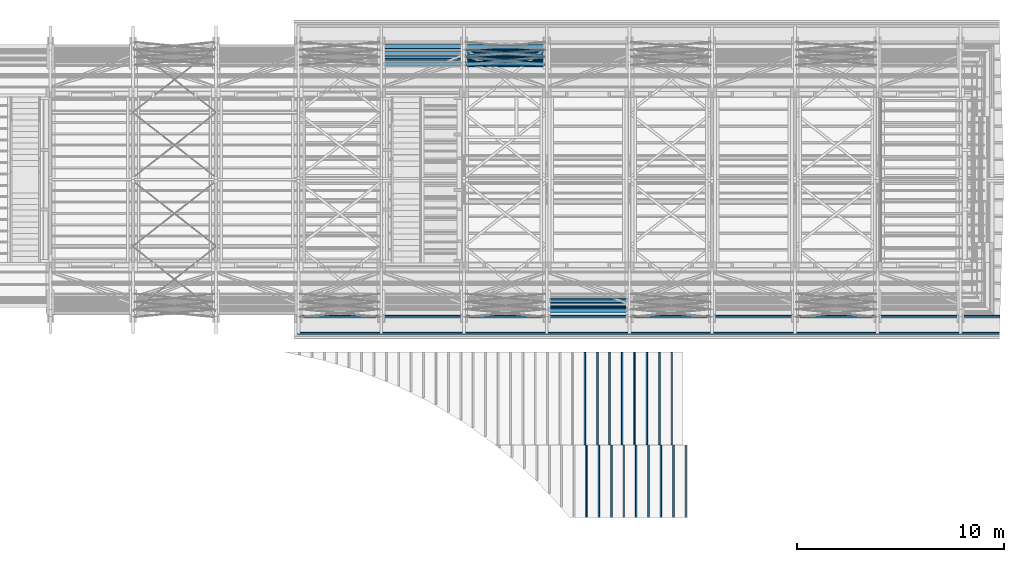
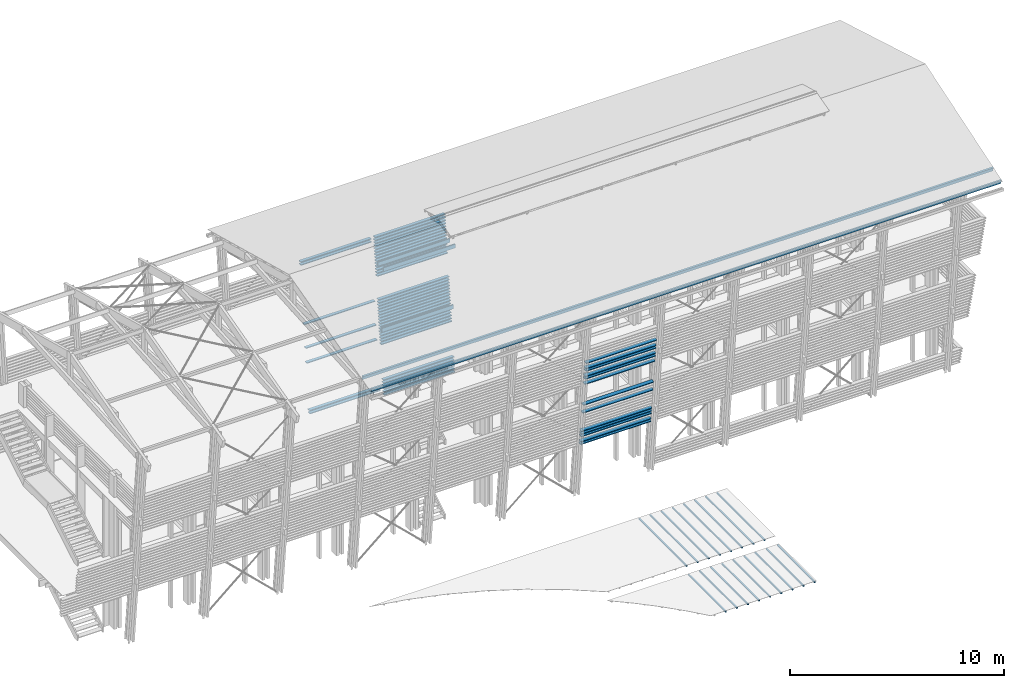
# One storey, part 16 of 48: 78 beams.
"""IFC2X3 building model written with IfcOpenShell, lengths in metres."""

import ifcopenshell
import ifcopenshell.guid

model = None  # the IFC model being written
_history = None  # IfcOwnerHistory: only IFC2X3 demands one
_inside = {}  # id of a spatial element -> (the spatial element, [elements in it])
_under = {}  # id of a project, library or spatial element -> (it, [spatial elements below it])
_declared = {}  # id of a project -> (the project, [libraries it declares])
_typed = {}  # id of a type object -> (the type object, [elements of that type])
_made_of = {}  # id of a material, layer set ... -> (it, [elements and type objects made of it])


def new_model(schema):
    """Start an empty IFC model of exactly this schema.

    Asked for "IFC4X3", IfcOpenShell would pick the latest addendum, in which some entities
    have other attributes; the version numbers below select the first issue.
    IFC2X3 requires an IfcOwnerHistory on every rooted entity: one is made here for all.
    """
    global model, _history
    if schema == "IFC4X3":
        model = ifcopenshell.file(schema_version=(4, 3, 0, 0))
    else:
        model = ifcopenshell.file(schema=schema)
    _inside.clear()
    _under.clear()
    _declared.clear()
    _typed.clear()
    _made_of.clear()
    _history = None
    if model.schema == "IFC2X3":
        org = make("IfcOrganization", Name="unknown")
        user = make(
            "IfcPersonAndOrganization",
            ThePerson=make("IfcPerson", FamilyName="unknown"),
            TheOrganization=org,
        )
        app = make(
            "IfcApplication",
            ApplicationDeveloper=org,
            Version="unknown",
            ApplicationFullName="unknown",
            ApplicationIdentifier="unknown",
        )
        _history = make(
            "IfcOwnerHistory",
            OwningUser=user,
            OwningApplication=app,
            ChangeAction="ADDED",
            CreationDate=0,
        )
    return model


def make(cls, **values):
    """One entity of the class cls with the attributes given. An attribute that is None is left unset."""
    return model.create_entity(
        cls, **{name: value for name, value in values.items() if value is not None}
    )


def rooted(cls, **values):
    """An entity with a GlobalId (a new one), such as an element, a storey or a relation."""
    return make(cls, GlobalId=ifcopenshell.guid.new(), OwnerHistory=_history, **values)


def si_unit(unit_type, name, prefix=None):
    """IfcSIUnit, for example si_unit("LENGTHUNIT", "METRE", prefix="MILLI")."""
    return make("IfcSIUnit", UnitType=unit_type, Prefix=prefix, Name=name)


def assignment(units):
    """IfcUnitAssignment: the units of a project."""
    return None if units is None else make("IfcUnitAssignment", Units=units)


def point(xyz):
    """IfcCartesianPoint."""
    return None if xyz is None else make("IfcCartesianPoint", Coordinates=xyz)


def direction(xyz):
    """IfcDirection."""
    return None if xyz is None else make("IfcDirection", DirectionRatios=xyz)


def frame(location, z_axis=None, x_axis=None):
    """IfcAxis2Placement3D, a coordinate frame: its origin and axes. An axis left out is left unset."""
    return make(
        "IfcAxis2Placement3D",
        Location=point(location),
        Axis=direction(z_axis),
        RefDirection=direction(x_axis),
    )


def origin_with_axes():
    """The frame at (0, 0, 0) with the z axis (0, 0, 1) and the x axis (1, 0, 0) written out."""
    return frame((0.0, 0.0, 0.0), z_axis=(0.0, 0.0, 1.0), x_axis=(1.0, 0.0, 0.0))


def place(relative_to, where):
    """IfcLocalPlacement: puts the frame where relative to a parent placement (None: the world)."""
    return make(
        "IfcLocalPlacement", PlacementRelTo=relative_to, RelativePlacement=where
    )


def context(
    kind, dimensions, precision=None, world=None, true_north=None, identifier=None
):
    """IfcGeometricRepresentationContext, for example the 3D "Model" context."""
    return make(
        "IfcGeometricRepresentationContext",
        ContextIdentifier=identifier,
        ContextType=kind,
        CoordinateSpaceDimension=dimensions,
        Precision=precision,
        WorldCoordinateSystem=world,
        TrueNorth=true_north,
    )


def subcontext(parent, identifier, kind, view, scale=None):
    """IfcGeometricRepresentationSubContext, for example "Body" below "Model"."""
    return make(
        "IfcGeometricRepresentationSubContext",
        ContextIdentifier=identifier,
        ContextType=kind,
        ParentContext=parent,
        TargetScale=scale,
        TargetView=view,
    )


def project(units=None, contexts=None):
    """IfcProject with its units and contexts."""
    return rooted(
        "IfcProject",
        Name="project",
        RepresentationContexts=contexts,
        UnitsInContext=assignment(units),
    )


def spatial(cls, under=None, at=None, **own):
    """A site, building, storey or space (cls), placed at a placement, below another one or the project."""
    s = rooted(cls, ObjectPlacement=at, **own)
    if under is not None:
        _under.setdefault(under.id(), (under, []))[1].append(s)
    return s


def faces_of(points, faces, orient=None, outer=None):
    """IfcFace entities. A face is a list of loops; a loop is a list of indices into points, from 0.

    orient and outer hold one flag for each loop. By default every Orientation is true, the
    first loop of a face is its IfcFaceOuterBound and the others are IfcFaceBound.
    """
    made = []
    for i, loops in enumerate(faces):
        bounds = []
        for j, loop in enumerate(loops):
            is_outer = j == 0 if outer is None else outer[i][j]
            bounds.append(
                make(
                    "IfcFaceOuterBound" if is_outer else "IfcFaceBound",
                    Bound=make("IfcPolyLoop", Polygon=[points[k] for k in loop]),
                    Orientation=True if orient is None else orient[i][j],
                )
            )
        made.append(make("IfcFace", Bounds=bounds))
    return made


def faceted_brep(points, faces, orient=None, outer=None, voids=None):
    """IfcFacetedBrep: a solid bounded by flat faces; with voids (closed shells), ...WithVoids."""
    shared = [point(p) for p in points]
    hull = make("IfcClosedShell", CfsFaces=faces_of(shared, faces, orient, outer))
    if voids is None:
        return make("IfcFacetedBrep", Outer=hull)
    return make(
        "IfcFacetedBrepWithVoids",
        Outer=hull,
        Voids=[
            make(cls, CfsFaces=faces_of(shared, fs, o, b)) for cls, fs, o, b in voids
        ],
    )


def shape(context_of_items, identifier, shape_type, items):
    """IfcShapeRepresentation: the items that make up one representation, for example the "Body"."""
    return make(
        "IfcShapeRepresentation",
        ContextOfItems=context_of_items,
        RepresentationIdentifier=identifier,
        RepresentationType=shape_type,
        Items=items,
    )


def material(Name=None, Category=None):
    """IfcMaterial."""
    return make("IfcMaterial", Name=Name, Category=Category)


def made_of(thing, what):
    """Note that an element or type object is made of a material, layer set ...; save() writes the relation."""
    if what is not None:
        _made_of.setdefault(what.id(), (what, []))[1].append(thing)
    return thing


def element(
    cls,
    number,
    at=None,
    inside=None,
    cuts=None,
    type_object=None,
    material=None,
    context=None,
    identifier="Body",
    shape_type=None,
    held_by="IfcProductDefinitionShape",
    body=None,
    shapes=None,
    **own,
):
    """One element of the class cls, such as IfcWall. Its Tag is "e" and its number.

    at: its placement. inside: the storey or other place that contains it. cuts: it is an
    opening in that element (IfcRelVoidsElement). A single representation is given by context,
    identifier, shape_type and body (its items); several are given by shapes. held_by: the class
    of the entity that holds the representations. save() writes the other relations.
    """
    e = rooted(cls, Tag="e%d" % number, ObjectPlacement=at, **own)
    if body is not None:
        shapes = [shape(context, identifier, shape_type, body)]
    if shapes is not None:
        e.Representation = make(held_by, Representations=shapes)
    if inside is not None:
        _inside.setdefault(inside.id(), (inside, []))[1].append(e)
    if cuts is not None:
        rooted(
            "IfcRelVoidsElement", RelatingBuildingElement=cuts, RelatedOpeningElement=e
        )
    if type_object is not None:
        _typed.setdefault(type_object.id(), (type_object, []))[1].append(e)
    return made_of(e, material)


def aggregate(whole, parts):
    """IfcRelAggregates: a whole, such as a stair, and the parts it consists of."""
    return rooted("IfcRelAggregates", RelatingObject=whole, RelatedObjects=parts)


def save(model, path):
    """Write the relations noted so far, then the file.

    IfcRelAggregates (storeys below a building ...), IfcRelContainedInSpatialStructure (elements
    in a storey), IfcRelDefinesByType, IfcRelAssociatesMaterial and IfcRelDeclares: one each for
    every whole, place, type object, material and project.
    """
    for whole, parts in _under.values():
        aggregate(whole, parts)
    for where, things in _inside.values():
        rooted(
            "IfcRelContainedInSpatialStructure",
            RelatedElements=things,
            RelatingStructure=where,
        )
    for kind, things in _typed.values():
        rooted("IfcRelDefinesByType", RelatedObjects=things, RelatingType=kind)
    for what, things in _made_of.values():
        rooted("IfcRelAssociatesMaterial", RelatedObjects=things, RelatingMaterial=what)
    for by, libraries in _declared.values():
        rooted("IfcRelDeclares", RelatingContext=by, RelatedDefinitions=libraries)
    model.write(path)


model = new_model("IFC2X3")

# Units and contexts
model_context = context("Model", 3, precision=1e-06, world=origin_with_axes(), true_north=direction((0.0, 1.0, 0.0)))
body_context = subcontext(model_context, "Body", "Model", "MODEL_VIEW")
ifc_project = project(units=[si_unit("LENGTHUNIT", "METRE"), si_unit("AREAUNIT", "SQUARE_METRE"), si_unit("VOLUMEUNIT", "CUBIC_METRE"), si_unit("PLANEANGLEUNIT", "RADIAN")], contexts=[model_context])

# Site, building, storey
site_placement = place(None, origin_with_axes())
site = spatial("IfcSite", under=ifc_project, at=site_placement, CompositionType="ELEMENT")
building_placement = place(site_placement, origin_with_axes())
building = spatial("IfcBuilding", under=site, at=building_placement, Name="Building 1", CompositionType="ELEMENT")
storey_placement = place(building_placement, origin_with_axes())
storey = spatial("IfcBuildingStorey", under=building, at=storey_placement, Name="Storey 1", CompositionType="ELEMENT", Elevation=0.0)

# Beams
ifc_material_1 = material(Name="Moabi")
beam_1_placement = place(storey_placement, frame((53.3927441, -195.4285604, 6.9189793), z_axis=(0.0, 0.9945219, 0.1045285), x_axis=(-1.0, 0.0, 0.0)))
element("IfcBeam", 1, at=beam_1_placement, inside=storey, material=ifc_material_1, Name="garde corp", context=body_context, shape_type="Brep", body=[
    faceted_brep([(3.806, 0.02, -0.1), (3.806, -0.02, -0.1), (0.0, -0.02, -0.1), (0.0, 0.02, -0.1), (3.806, -0.02, 0.1), (0.0, -0.02, 0.1), (3.806, 0.02, 0.1), (0.0, 0.02, 0.1)], [[[0, 1, 2, 3]], [[1, 4, 5, 2]], [[4, 6, 7, 5]], [[6, 0, 3, 7]], [[1, 0, 6, 4]], [[7, 3, 2, 5]]]),
])
beam_2_placement = place(storey_placement, frame((53.3927439, -195.0606202, 3.4182623), z_axis=(0.0, 0.9945219, 0.1045285), x_axis=(-1.0, 0.0, 0.0)))
element("IfcBeam", 2, at=beam_2_placement, inside=storey, material=ifc_material_1, Name="garde corp", context=body_context, shape_type="Brep", body=[
    faceted_brep([(3.8047069, 0.02, -0.1), (3.8047069, -0.02, -0.1), (0.0, -0.02, -0.1), (0.0, 0.02, -0.1), (3.8047069, -0.02, 0.1), (0.0, -0.02, 0.1), (3.8047071, 0.02, 0.1), (0.0, 0.02, 0.1)], [[[0, 1, 2, 3]], [[1, 4, 5, 2]], [[4, 6, 7, 5]], [[6, 0, 3, 7]], [[1, 0, 6, 4]], [[7, 3, 2, 5]]]),
])
beam_3_placement = place(storey_placement, frame((49.3927439, -183.1213756, 5.6459913), z_axis=(0.0, -0.9945219, 0.1045285), x_axis=(-1.0, 0.0, 0.0)))
element("IfcBeam", 3, at=beam_3_placement, inside=storey, material=ifc_material_1, Name="garde corp", context=body_context, shape_type="Brep", body=[
    faceted_brep([(3.8048053, -0.02, 0.1), (3.8048053, 0.02, 0.1), (0.0, 0.02, 0.1), (0.0, -0.02, 0.1), (3.8048051, 0.02, -0.1), (0.0, 0.02, -0.1), (3.8048053, -0.02, -0.1), (0.0, -0.02, -0.1)], [[[0, 1, 2, 3]], [[1, 4, 5, 2]], [[4, 6, 7, 5]], [[6, 0, 3, 7]], [[1, 0, 6, 4]], [[7, 3, 2, 5]]]),
])
ifc_material_2 = material(Name="GL28h")
beam_4_placement = place(storey_placement, frame((52.6127827, -205.5464204, -0.606), z_axis=(-1.0, 0.0, 0.0), x_axis=(0.0, 1.0, 0.0)))
element("IfcBeam", 4, at=beam_4_placement, inside=storey, material=ifc_material_2, Name="carrelet", context=body_context, shape_type="Brep", body=[
    faceted_brep([(3.5, -0.035, -0.035), (3.5, -0.035, 0.035), (0.0, -0.035, 0.035), (0.0, -0.035, -0.035), (3.5, 0.035, 0.035), (0.0, 0.035, 0.035), (3.5, 0.035, -0.035), (0.0, 0.035, -0.035)], [[[0, 1, 2, 3]], [[1, 4, 5, 2]], [[4, 6, 7, 5]], [[6, 0, 3, 7]], [[1, 0, 6, 4]], [[7, 3, 2, 5]]]),
])
beam_5_placement = place(storey_placement, frame((49.3927439, -183.2384475, 4.5321268), z_axis=(0.0, -0.9945219, 0.1045285), x_axis=(-1.0, 0.0, 0.0)))
element("IfcBeam", 5, at=beam_5_placement, inside=storey, material=ifc_material_1, Name="garde corp", context=body_context, shape_type="Brep", body=[
    faceted_brep([(3.8047077, -0.02, 0.1), (3.8047077, 0.02, 0.1), (0.0, 0.02, 0.1), (0.0, -0.02, 0.1), (3.8047077, 0.02, -0.1), (0.0, 0.02, -0.1), (3.8047077, -0.02, -0.1), (0.0, -0.02, -0.1)], [[[0, 1, 2, 3]], [[1, 4, 5, 2]], [[4, 6, 7, 5]], [[6, 0, 3, 7]], [[1, 0, 6, 4]], [[7, 3, 2, 5]]]),
])
beam_6_placement = place(storey_placement, frame((71.383449, -196.6347998, 11.5351594), z_axis=(0.0, -0.258819, 0.9659258), x_axis=(-1.0, 0.0, 0.0)))
element("IfcBeam", 6, at=beam_6_placement, inside=storey, material=ifc_material_2, Name="pannes", context=body_context, shape_type="Brep", body=[
    faceted_brep([(0.0, -0.035, -0.11), (0.0016292, -0.035, 0.11), (0.0035637, 0.035, 0.11), (0.0019346, 0.035, -0.11), (33.9637053, -0.035, 0.11), (33.9637053, 0.035, 0.11), (33.9637053, -0.035, -0.11), (33.9637053, 0.035, -0.11)], [[[0, 1, 2, 3]], [[2, 1, 4, 5]], [[1, 0, 6, 4]], [[3, 2, 5, 7]], [[0, 3, 7, 6]], [[4, 6, 7, 5]]]),
])
beam_7_placement = place(storey_placement, frame((71.4068021, -195.8282517, 11.7512733), z_axis=(0.0, -0.258819, 0.9659258), x_axis=(-1.0, 0.0, 0.0)))
element("IfcBeam", 7, at=beam_7_placement, inside=storey, material=ifc_material_2, Name="pannes", context=body_context, shape_type="Brep", body=[
    faceted_brep([(0.0, -0.045, -0.11), (0.0016292, -0.045, 0.11), (0.0041165, 0.045, 0.11), (0.0024873, 0.045, -0.11), (33.9870584, -0.045, 0.11), (33.9870584, 0.045, 0.11), (33.9870584, -0.045, -0.11), (33.9870584, 0.045, -0.11)], [[[0, 1, 2, 3]], [[2, 1, 4, 5]], [[1, 0, 6, 4]], [[0, 3, 7, 6]], [[3, 2, 5, 7]], [[5, 4, 6, 7]]]),
])
beam_8_placement = place(storey_placement, frame((45.5597437, -183.5174506, 4.139), z_axis=(0.0, 0.0, 1.0), x_axis=(1.0, 0.0, 0.0)))
element("IfcBeam", 8, at=beam_8_placement, inside=storey, material=ifc_material_2, Name="Solive", context=body_context, shape_type="Brep", body=[
    faceted_brep([(3.86, 0.035, 0.11), (3.86, 0.035, -0.11), (0.0, 0.035, -0.11), (0.0, 0.035, 0.11), (3.86, -0.035, -0.11), (0.0, -0.035, -0.11), (3.86, -0.035, 0.11), (0.0, -0.035, 0.11)], [[[0, 1, 2, 3]], [[1, 4, 5, 2]], [[4, 6, 7, 5]], [[6, 0, 3, 7]], [[1, 0, 6, 4]], [[7, 3, 2, 5]]]),
])
beam_9_placement = place(storey_placement, frame((51.4127827, -205.5464204, -0.606), z_axis=(-1.0, 0.0, 0.0), x_axis=(0.0, 1.0, 0.0)))
element("IfcBeam", 9, at=beam_9_placement, inside=storey, material=ifc_material_2, Name="carrelet", context=body_context, shape_type="Brep", body=[
    faceted_brep([(3.5, -0.035, -0.035), (3.5, -0.035, 0.035), (0.0, -0.035, 0.035), (0.0, -0.035, -0.035), (3.5, 0.035, 0.035), (0.0, 0.035, 0.035), (3.5, 0.035, -0.035), (0.0, 0.035, -0.035)], [[[0, 1, 2, 3]], [[1, 4, 5, 2]], [[4, 6, 7, 5]], [[6, 0, 3, 7]], [[1, 0, 6, 4]], [[7, 3, 2, 5]]]),
])
beam_10_placement = place(storey_placement, frame((53.3927441, -195.5121831, 7.7145968), z_axis=(0.0, 0.9945219, 0.1045285), x_axis=(-1.0, 0.0, 0.0)))
element("IfcBeam", 10, at=beam_10_placement, inside=storey, material=ifc_material_1, Name="garde corp", context=body_context, shape_type="Brep", body=[
    faceted_brep([(3.806, 0.02, -0.1), (3.806, -0.02, -0.1), (0.0, -0.02, -0.1), (0.0, 0.02, -0.1), (3.806, -0.02, 0.1), (0.0, -0.02, 0.1), (3.806, 0.02, 0.1), (0.0, 0.02, 0.1)], [[[0, 1, 2, 3]], [[1, 4, 5, 2]], [[4, 6, 7, 5]], [[6, 0, 3, 7]], [[1, 0, 6, 4]], [[7, 3, 2, 5]]]),
])
for number, where, z_axis, x_axis in (
    (11, (53.7347007, -202.0254204, -0.106), (-1.0, 0.0, 0.0), (0.0, 1.0, 0.0)),
    (12, (52.5347007, -202.0254204, -0.106), (-1.0, 0.0, 0.0), (0.0, 1.0, 0.0)),
    (13, (51.3347007, -202.0254204, -0.106), (-1.0, 0.0, 0.0), (0.0, 1.0, 0.0)),
    (14, (54.3347007, -202.0254204, -0.106), (-1.0, 0.0, 0.0), (0.0, 1.0, 0.0)),
):
    element("IfcBeam", number, at=place(storey_placement, frame(where, z_axis=z_axis, x_axis=x_axis)), inside=storey, material=ifc_material_2, Name="carrelet", context=body_context, shape_type="Brep", body=[
        faceted_brep([(4.458, -0.035, -0.035), (4.458, -0.035, 0.035), (0.0, -0.035, 0.035), (0.0, -0.035, -0.035), (4.458, 0.035, 0.035), (0.0, 0.035, 0.035), (4.458, 0.035, -0.035), (0.0, 0.035, -0.035)], [[[0, 1, 2, 3]], [[1, 4, 5, 2]], [[4, 6, 7, 5]], [[6, 0, 3, 7]], [[1, 0, 6, 4]], [[7, 3, 2, 5]]]),
    ])
beam_11_placement = place(storey_placement, frame((56.2127827, -205.5464204, -0.606), z_axis=(-1.0, 0.0, 0.0), x_axis=(0.0, 1.0, 0.0)))
element("IfcBeam", 15, at=beam_11_placement, inside=storey, material=ifc_material_2, Name="carrelet", context=body_context, shape_type="Brep", body=[
    faceted_brep([(3.5, -0.035, -0.035), (3.5, -0.035, 0.035), (0.0, -0.035, 0.035), (0.0, -0.035, -0.035), (3.5, 0.035, 0.035), (0.0, 0.035, 0.035), (3.5, 0.035, -0.035), (0.0, 0.035, -0.035)], [[[0, 1, 2, 3]], [[1, 4, 5, 2]], [[4, 6, 7, 5]], [[6, 0, 3, 7]], [[1, 0, 6, 4]], [[7, 3, 2, 5]]]),
])
for number, where, z_axis, x_axis in (
    (16, (51.9347007, -202.0254204, -0.106), (-1.0, 0.0, 0.0), (0.0, 1.0, 0.0)),
    (17, (54.9347007, -202.0254204, -0.106), (-1.0, 0.0, 0.0), (0.0, 1.0, 0.0)),
    (18, (53.1347007, -202.0254204, -0.106), (-1.0, 0.0, 0.0), (0.0, 1.0, 0.0)),
    (19, (55.5347007, -202.0254204, -0.106), (-1.0, 0.0, 0.0), (0.0, 1.0, 0.0)),
):
    element("IfcBeam", number, at=place(storey_placement, frame(where, z_axis=z_axis, x_axis=x_axis)), inside=storey, material=ifc_material_2, Name="carrelet", context=body_context, shape_type="Brep", body=[
        faceted_brep([(4.458, -0.035, -0.035), (4.458, -0.035, 0.035), (0.0, -0.035, 0.035), (0.0, -0.035, -0.035), (4.458, 0.035, 0.035), (0.0, 0.035, 0.035), (4.458, 0.035, -0.035), (0.0, 0.035, -0.035)], [[[0, 1, 2, 3]], [[1, 4, 5, 2]], [[4, 6, 7, 5]], [[6, 0, 3, 7]], [[1, 0, 6, 4]], [[7, 3, 2, 5]]]),
    ])
for number, where, z_axis, x_axis in (
    (20, (54.4127827, -205.5464204, -0.606), (-1.0, 0.0, 0.0), (0.0, 1.0, 0.0)),
    (21, (55.0127827, -205.5464204, -0.606), (-1.0, 0.0, 0.0), (0.0, 1.0, 0.0)),
    (22, (52.0127827, -205.5464204, -0.606), (-1.0, 0.0, 0.0), (0.0, 1.0, 0.0)),
    (23, (53.8127827, -205.5464204, -0.606), (-1.0, 0.0, 0.0), (0.0, 1.0, 0.0)),
    (24, (55.6127827, -205.5464204, -0.606), (-1.0, 0.0, 0.0), (0.0, 1.0, 0.0)),
    (25, (53.2127827, -205.5464204, -0.606), (-1.0, 0.0, 0.0), (0.0, 1.0, 0.0)),
):
    element("IfcBeam", number, at=place(storey_placement, frame(where, z_axis=z_axis, x_axis=x_axis)), inside=storey, material=ifc_material_2, Name="carrelet", context=body_context, shape_type="Brep", body=[
        faceted_brep([(3.5, -0.035, -0.035), (3.5, -0.035, 0.035), (0.0, -0.035, 0.035), (0.0, -0.035, -0.035), (3.5, 0.035, 0.035), (0.0, 0.035, 0.035), (3.5, 0.035, -0.035), (0.0, 0.035, -0.035)], [[[0, 1, 2, 3]], [[1, 4, 5, 2]], [[4, 6, 7, 5]], [[6, 0, 3, 7]], [[1, 0, 6, 4]], [[7, 3, 2, 5]]]),
    ])
beam_12_placement = place(storey_placement, frame((53.3927441, -195.5623568, 8.1919674), z_axis=(0.0, 0.9945219, 0.1045285), x_axis=(-1.0, 0.0, 0.0)))
element("IfcBeam", 26, at=beam_12_placement, inside=storey, material=ifc_material_1, Name="garde corp", context=body_context, shape_type="Brep", body=[
    faceted_brep([(3.806, 0.02, -0.1), (3.806, -0.02, -0.1), (0.0, -0.02, -0.1), (0.0, 0.02, -0.1), (3.806, -0.02, 0.1), (0.0, -0.02, 0.1), (3.806, 0.02, 0.1), (0.0, 0.02, 0.1)], [[[0, 1, 2, 3]], [[1, 4, 5, 2]], [[4, 6, 7, 5]], [[6, 0, 3, 7]], [[1, 0, 6, 4]], [[7, 3, 2, 5]]]),
])
beam_13_placement = place(storey_placement, frame((45.5597437, -183.1714881, 7.699), z_axis=(0.0, 0.0, 1.0), x_axis=(1.0, 0.0, 0.0)))
element("IfcBeam", 27, at=beam_13_placement, inside=storey, material=ifc_material_2, Name="Solive", context=body_context, shape_type="Brep", body=[
    faceted_brep([(3.86, 0.035, 0.11), (3.86, 0.035, -0.11), (0.0, 0.035, -0.11), (0.0, 0.035, 0.11), (3.86, -0.035, -0.11), (0.0, -0.035, -0.11), (3.86, -0.035, 0.11), (0.0, -0.035, 0.11)], [[[0, 1, 2, 3]], [[1, 4, 5, 2]], [[4, 6, 7, 5]], [[6, 0, 3, 7]], [[1, 0, 6, 4]], [[7, 3, 2, 5]]]),
])
for number, where, z_axis, x_axis, name in (
    (28, (53.3927439, -195.2947639, 5.6459913), (0.0, 0.9945219, 0.1045285), (-1.0, 0.0, 0.0), "garde corp"),
    (29, (53.3927439, -195.2445903, 5.1686208), (0.0, 0.9945219, 0.1045285), (-1.0, 0.0, 0.0), "garde corp"),
):
    element("IfcBeam", number, at=place(storey_placement, frame(where, z_axis=z_axis, x_axis=x_axis)), inside=storey, material=ifc_material_1, Name=name, context=body_context, shape_type="Brep", body=[
        faceted_brep([(3.8048055, 0.02, -0.1), (3.8048055, -0.02, -0.1), (0.0, -0.02, -0.1), (0.0, 0.02, -0.1), (3.8048055, -0.02, 0.1), (0.0, -0.02, 0.1), (3.8048055, 0.02, 0.1), (0.0, 0.02, 0.1)], [[[0, 1, 2, 3]], [[1, 4, 5, 2]], [[4, 6, 7, 5]], [[6, 0, 3, 7]], [[1, 0, 6, 4]], [[7, 3, 2, 5]]]),
    ])
beam_14_placement = place(storey_placement, frame((49.3927441, -182.9374055, 7.3963498), z_axis=(0.0, -0.9945219, 0.1045285), x_axis=(-1.0, 0.0, 0.0)))
element("IfcBeam", 30, at=beam_14_placement, inside=storey, material=ifc_material_1, Name="garde corp", context=body_context, shape_type="Brep", body=[
    faceted_brep([(3.806, -0.02, 0.1), (3.806, 0.02, 0.1), (0.0, 0.02, 0.1), (0.0, -0.02, 0.1), (3.806, 0.02, -0.1), (0.0, 0.02, -0.1), (3.806, -0.02, -0.1), (0.0, -0.02, -0.1)], [[[0, 1, 2, 3]], [[1, 4, 5, 2]], [[4, 6, 7, 5]], [[6, 0, 3, 7]], [[1, 0, 6, 4]], [[7, 3, 2, 5]]]),
])
beam_15_placement = place(storey_placement, frame((53.3927439, -195.0940693, 3.7365093), z_axis=(0.0, 0.9945219, 0.1045285), x_axis=(-1.0, 0.0, 0.0)))
element("IfcBeam", 31, at=beam_15_placement, inside=storey, material=ifc_material_1, Name="garde corp", context=body_context, shape_type="Brep", body=[
    faceted_brep([(3.8047069, 0.02, -0.1), (3.8047071, -0.02, -0.1), (0.0, -0.02, -0.1), (0.0, 0.02, -0.1), (3.8047071, -0.02, 0.1), (0.0, -0.02, 0.1), (3.8047071, 0.02, 0.1), (0.0, 0.02, 0.1)], [[[0, 1, 2, 3]], [[1, 4, 5, 2]], [[4, 6, 7, 5]], [[6, 0, 3, 7]], [[1, 0, 6, 4]], [[7, 3, 2, 5]]]),
])
beam_16_placement = place(storey_placement, frame((53.3927439, -195.1275184, 4.0547563), z_axis=(0.0, 0.9945219, 0.1045285), x_axis=(-1.0, 0.0, 0.0)))
element("IfcBeam", 32, at=beam_16_placement, inside=storey, material=ifc_material_1, Name="garde corp", context=body_context, shape_type="Brep", body=[
    faceted_brep([(3.8048051, 0.02, -0.1), (3.8048051, -0.02, -0.1), (0.0, -0.02, -0.1), (0.0, 0.02, -0.1), (3.8048051, -0.02, 0.1), (0.0, -0.02, 0.1), (3.8048051, 0.02, 0.1), (0.0, 0.02, 0.1)], [[[0, 1, 2, 3]], [[1, 4, 5, 2]], [[4, 6, 7, 5]], [[6, 0, 3, 7]], [[1, 0, 6, 4]], [[7, 3, 2, 5]]]),
])
beam_17_placement = place(storey_placement, frame((53.3927441, -195.5289077, 7.8737203), z_axis=(0.0, 0.9945219, 0.1045285), x_axis=(-1.0, 0.0, 0.0)))
element("IfcBeam", 33, at=beam_17_placement, inside=storey, material=ifc_material_1, Name="garde corp", context=body_context, shape_type="Brep", body=[
    faceted_brep([(3.806, 0.02, -0.1), (3.806, -0.02, -0.1), (0.0, -0.02, -0.1), (0.0, 0.02, -0.1), (3.806, -0.02, 0.1), (0.0, -0.02, 0.1), (3.806, 0.02, 0.1), (0.0, 0.02, 0.1)], [[[0, 1, 2, 3]], [[1, 4, 5, 2]], [[4, 6, 7, 5]], [[6, 0, 3, 7]], [[1, 0, 6, 4]], [[7, 3, 2, 5]]]),
])
beam_18_placement = place(storey_placement, frame((53.3927439, -195.0438956, 3.2591388), z_axis=(0.0, 0.9945219, 0.1045285), x_axis=(-1.0, 0.0, 0.0)))
element("IfcBeam", 34, at=beam_18_placement, inside=storey, material=ifc_material_1, Name="garde corp", context=body_context, shape_type="Brep", body=[
    faceted_brep([(3.8048051, 0.02, -0.1), (3.8048051, -0.02, -0.1), (0.0, -0.02, -0.1), (0.0, 0.02, -0.1), (3.8048051, -0.02, 0.1), (0.0, -0.02, 0.1), (3.8048051, 0.02, 0.1), (0.0, 0.02, 0.1)], [[[0, 1, 2, 3]], [[1, 4, 5, 2]], [[4, 6, 7, 5]], [[6, 0, 3, 7]], [[1, 0, 6, 4]], [[7, 3, 2, 5]]]),
])
beam_19_placement = place(storey_placement, frame((53.3927439, -195.1107938, 3.8956328), z_axis=(0.0, 0.9945219, 0.1045285), x_axis=(-1.0, 0.0, 0.0)))
element("IfcBeam", 35, at=beam_19_placement, inside=storey, material=ifc_material_1, Name="garde corp", context=body_context, shape_type="Brep", body=[
    faceted_brep([(3.8047069, 0.02, -0.1), (3.8047071, -0.02, -0.1), (0.0, -0.02, -0.1), (0.0, 0.02, -0.1), (3.8047071, -0.02, 0.1), (0.0, -0.02, 0.1), (3.8047071, 0.02, 0.1), (0.0, 0.02, 0.1)], [[[0, 1, 2, 3]], [[1, 4, 5, 2]], [[4, 6, 7, 5]], [[6, 0, 3, 7]], [[1, 0, 6, 4]], [[7, 3, 2, 5]]]),
])
beam_20_placement = place(storey_placement, frame((53.3927441, -195.478734, 7.3963498), z_axis=(0.0, 0.9945219, 0.1045285), x_axis=(-1.0, 0.0, 0.0)))
element("IfcBeam", 36, at=beam_20_placement, inside=storey, material=ifc_material_1, Name="garde corp", context=body_context, shape_type="Brep", body=[
    faceted_brep([(3.806, 0.02, -0.1), (3.806, -0.02, -0.1), (0.0, -0.02, -0.1), (0.0, 0.02, -0.1), (3.806, -0.02, 0.1), (0.0, -0.02, 0.1), (3.806, 0.02, 0.1), (0.0, 0.02, 0.1)], [[[0, 1, 2, 3]], [[1, 4, 5, 2]], [[4, 6, 7, 5]], [[6, 0, 3, 7]], [[1, 0, 6, 4]], [[7, 3, 2, 5]]]),
])
for number, where, z_axis, x_axis, name in (
    (37, (49.3927441, -182.920681, 7.5554733), (0.0, -0.9945219, 0.1045285), (-1.0, 0.0, 0.0), "garde corp"),
    (38, (49.3927437, -182.77016, 8.9875849), (0.0, -0.9945219, 0.1045285), (-1.0, 0.0, 0.0), "garde corp"),
):
    element("IfcBeam", number, at=place(storey_placement, frame(where, z_axis=z_axis, x_axis=x_axis)), inside=storey, material=ifc_material_1, Name=name, context=body_context, shape_type="Brep", body=[
        faceted_brep([(3.806, -0.02, 0.1), (3.806, 0.02, 0.1), (0.0, 0.02, 0.1), (0.0, -0.02, 0.1), (3.806, 0.02, -0.1), (0.0, 0.02, -0.1), (3.806, -0.02, -0.1), (0.0, -0.02, -0.1)], [[[0, 1, 2, 3]], [[1, 4, 5, 2]], [[4, 6, 7, 5]], [[6, 0, 3, 7]], [[1, 0, 6, 4]], [[7, 3, 2, 5]]]),
    ])
beam_21_placement = place(storey_placement, frame((53.3927441, -195.4620095, 7.2372263), z_axis=(0.0, 0.9945219, 0.1045285), x_axis=(-1.0, 0.0, 0.0)))
element("IfcBeam", 39, at=beam_21_placement, inside=storey, material=ifc_material_1, Name="garde corp", context=body_context, shape_type="Brep", body=[
    faceted_brep([(3.806, 0.02, -0.1), (3.806, -0.02, -0.1), (0.0, -0.02, -0.1), (0.0, 0.02, -0.1), (3.806, -0.02, 0.1), (0.0, -0.02, 0.1), (3.806, 0.02, 0.1), (0.0, 0.02, 0.1)], [[[0, 1, 2, 3]], [[1, 4, 5, 2]], [[4, 6, 7, 5]], [[6, 0, 3, 7]], [[1, 0, 6, 4]], [[7, 3, 2, 5]]]),
])
beam_22_placement = place(storey_placement, frame((49.3927439, -183.3053457, 3.8956328), z_axis=(0.0, -0.9945219, 0.1045285), x_axis=(-1.0, 0.0, 0.0)))
element("IfcBeam", 40, at=beam_22_placement, inside=storey, material=ifc_material_1, Name="garde corp", context=body_context, shape_type="Brep", body=[
    faceted_brep([(3.8047073, -0.02, 0.1), (3.8047075, 0.02, 0.1), (0.0, 0.02, 0.1), (0.0, -0.02, 0.1), (3.8047077, 0.02, -0.1), (0.0, 0.02, -0.1), (3.8047077, -0.02, -0.1), (0.0, -0.02, -0.1)], [[[0, 1, 2, 3]], [[1, 4, 5, 2]], [[4, 6, 7, 5]], [[6, 0, 3, 7]], [[1, 0, 6, 4]], [[7, 3, 2, 5]]]),
])
beam_23_placement = place(storey_placement, frame((49.3927439, -183.2551721, 4.3730033), z_axis=(0.0, -0.9945219, 0.1045285), x_axis=(-1.0, 0.0, 0.0)))
element("IfcBeam", 41, at=beam_23_placement, inside=storey, material=ifc_material_1, Name="garde corp", context=body_context, shape_type="Brep", body=[
    faceted_brep([(3.8048051, -0.02, 0.1), (3.8048051, 0.02, 0.1), (0.0, 0.02, 0.1), (0.0, -0.02, 0.1), (3.8048051, 0.02, -0.1), (0.0, 0.02, -0.1), (3.8048051, -0.02, -0.1), (0.0, -0.02, -0.1)], [[[0, 1, 2, 3]], [[1, 4, 5, 2]], [[4, 6, 7, 5]], [[6, 0, 3, 7]], [[1, 0, 6, 4]], [[7, 3, 2, 5]]]),
])
beam_24_placement = place(storey_placement, frame((49.3927439, -183.3555194, 3.4182623), z_axis=(0.0, -0.9945219, 0.1045285), x_axis=(-1.0, 0.0, 0.0)))
element("IfcBeam", 42, at=beam_24_placement, inside=storey, material=ifc_material_1, Name="garde corp", context=body_context, shape_type="Brep", body=[
    faceted_brep([(3.8047073, -0.02, 0.1), (3.8047077, 0.02, 0.1), (0.0, 0.02, 0.1), (0.0, -0.02, 0.1), (3.8047077, 0.02, -0.1), (0.0, 0.02, -0.1), (3.8047077, -0.02, -0.1), (0.0, -0.02, -0.1)], [[[0, 1, 2, 3]], [[1, 4, 5, 2]], [[4, 6, 7, 5]], [[6, 0, 3, 7]], [[1, 0, 6, 4]], [[7, 3, 2, 5]]]),
])
beam_25_placement = place(storey_placement, frame((49.3927439, -183.3722439, 3.2591388), z_axis=(0.0, -0.9945219, 0.1045285), x_axis=(-1.0, 0.0, 0.0)))
element("IfcBeam", 43, at=beam_25_placement, inside=storey, material=ifc_material_1, Name="garde corp", context=body_context, shape_type="Brep", body=[
    faceted_brep([(3.8048051, -0.02, 0.1), (3.8048051, 0.02, 0.1), (0.0, 0.02, 0.1), (0.0, -0.02, 0.1), (3.8048051, 0.02, -0.1), (0.0, 0.02, -0.1), (3.8048051, -0.02, -0.1), (0.0, -0.02, -0.1)], [[[0, 1, 2, 3]], [[1, 4, 5, 2]], [[4, 6, 7, 5]], [[6, 0, 3, 7]], [[1, 0, 6, 4]], [[7, 3, 2, 5]]]),
])
for number, where, z_axis, x_axis, name in (
    (44, (49.3927441, -183.5896631, 1.1905332), (0.0, -0.9945219, 0.1045285), (-1.0, 0.0, 0.0), "garde corp"),
    (45, (49.3927441, -182.8872319, 7.8737203), (0.0, -0.9945219, 0.1045285), (-1.0, 0.0, 0.0), "garde corp"),
):
    element("IfcBeam", number, at=place(storey_placement, frame(where, z_axis=z_axis, x_axis=x_axis)), inside=storey, material=ifc_material_1, Name=name, context=body_context, shape_type="Brep", body=[
        faceted_brep([(3.806, -0.02, 0.1), (3.806, 0.02, 0.1), (0.0, 0.02, 0.1), (0.0, -0.02, 0.1), (3.806, 0.02, -0.1), (0.0, 0.02, -0.1), (3.806, -0.02, -0.1), (0.0, -0.02, -0.1)], [[[0, 1, 2, 3]], [[1, 4, 5, 2]], [[4, 6, 7, 5]], [[6, 0, 3, 7]], [[1, 0, 6, 4]], [[7, 3, 2, 5]]]),
    ])
beam_26_placement = place(storey_placement, frame((49.3927439, -183.1381002, 5.4868678), z_axis=(0.0, -0.9945219, 0.1045285), x_axis=(-1.0, 0.0, 0.0)))
element("IfcBeam", 46, at=beam_26_placement, inside=storey, material=ifc_material_1, Name="garde corp", context=body_context, shape_type="Brep", body=[
    faceted_brep([(3.8047071, -0.02, 0.1), (3.8047079, 0.02, 0.1), (0.0, 0.02, 0.1), (0.0, -0.02, 0.1), (3.8047077, 0.02, -0.1), (0.0, 0.02, -0.1), (3.8047071, -0.02, -0.1), (0.0, -0.02, -0.1)], [[[0, 1, 2, 3]], [[1, 4, 5, 2]], [[4, 6, 7, 5]], [[6, 0, 3, 7]], [[1, 0, 6, 4]], [[7, 3, 2, 5]]]),
])
for number, where, z_axis, x_axis, name in (
    (47, (49.3927441, -182.8370582, 8.3510909), (0.0, -0.9945219, 0.1045285), (-1.0, 0.0, 0.0), "garde corp"),
    (48, (49.3927441, -182.9541301, 7.2372263), (0.0, -0.9945219, 0.1045285), (-1.0, 0.0, 0.0), "garde corp"),
    (49, (49.3927441, -182.9875792, 6.9189793), (0.0, -0.9945219, 0.1045285), (-1.0, 0.0, 0.0), "garde corp"),
):
    element("IfcBeam", number, at=place(storey_placement, frame(where, z_axis=z_axis, x_axis=x_axis)), inside=storey, material=ifc_material_1, Name=name, context=body_context, shape_type="Brep", body=[
        faceted_brep([(3.806, -0.02, 0.1), (3.806, 0.02, 0.1), (0.0, 0.02, 0.1), (0.0, -0.02, 0.1), (3.806, 0.02, -0.1), (0.0, 0.02, -0.1), (3.806, -0.02, -0.1), (0.0, -0.02, -0.1)], [[[0, 1, 2, 3]], [[1, 4, 5, 2]], [[4, 6, 7, 5]], [[6, 0, 3, 7]], [[1, 0, 6, 4]], [[7, 3, 2, 5]]]),
    ])
beam_27_placement = place(storey_placement, frame((49.3927439, -183.2049984, 4.8503738), z_axis=(0.0, -0.9945219, 0.1045285), x_axis=(-1.0, 0.0, 0.0)))
element("IfcBeam", 50, at=beam_27_placement, inside=storey, material=ifc_material_1, Name="garde corp", context=body_context, shape_type="Brep", body=[
    faceted_brep([(3.8048053, -0.02, 0.1), (3.8048053, 0.02, 0.1), (0.0, 0.02, 0.1), (0.0, -0.02, 0.1), (3.8048051, 0.02, -0.1), (0.0, 0.02, -0.1), (3.8048053, -0.02, -0.1), (0.0, -0.02, -0.1)], [[[0, 1, 2, 3]], [[1, 4, 5, 2]], [[4, 6, 7, 5]], [[6, 0, 3, 7]], [[1, 0, 6, 4]], [[7, 3, 2, 5]]]),
])
for number, where, z_axis, x_axis, name in (
    (51, (49.3927441, -182.8537828, 8.1919674), (0.0, -0.9945219, 0.1045285), (-1.0, 0.0, 0.0), "garde corp"),
    (52, (49.3927441, -182.7868846, 8.8284614), (0.0, -0.9945219, 0.1045285), (-1.0, 0.0, 0.0), "garde corp"),
):
    element("IfcBeam", number, at=place(storey_placement, frame(where, z_axis=z_axis, x_axis=x_axis)), inside=storey, material=ifc_material_1, Name=name, context=body_context, shape_type="Brep", body=[
        faceted_brep([(3.806, -0.02, 0.1), (3.806, 0.02, 0.1), (0.0, 0.02, 0.1), (0.0, -0.02, 0.1), (3.806, 0.02, -0.1), (0.0, 0.02, -0.1), (3.806, -0.02, -0.1), (0.0, -0.02, -0.1)], [[[0, 1, 2, 3]], [[1, 4, 5, 2]], [[4, 6, 7, 5]], [[6, 0, 3, 7]], [[1, 0, 6, 4]], [[7, 3, 2, 5]]]),
    ])
beam_28_placement = place(storey_placement, frame((49.3927439, -183.221723, 4.6912503), z_axis=(0.0, -0.9945219, 0.1045285), x_axis=(-1.0, 0.0, 0.0)))
element("IfcBeam", 53, at=beam_28_placement, inside=storey, material=ifc_material_1, Name="garde corp", context=body_context, shape_type="Brep", body=[
    faceted_brep([(3.8047071, -0.02, 0.1), (3.8047079, 0.02, 0.1), (0.0, 0.02, 0.1), (0.0, -0.02, 0.1), (3.8047071, 0.02, -0.1), (0.0, 0.02, -0.1), (3.8047071, -0.02, -0.1), (0.0, -0.02, -0.1)], [[[0, 1, 2, 3]], [[1, 4, 5, 2]], [[4, 6, 7, 5]], [[6, 0, 3, 7]], [[1, 0, 6, 4]], [[7, 3, 2, 5]]]),
])
beam_29_placement = place(storey_placement, frame((49.3927439, -183.1548247, 5.3277443), z_axis=(0.0, -0.9945219, 0.1045285), x_axis=(-1.0, 0.0, 0.0)))
element("IfcBeam", 54, at=beam_29_placement, inside=storey, material=ifc_material_1, Name="garde corp", context=body_context, shape_type="Brep", body=[
    faceted_brep([(3.8048053, -0.02, 0.1), (3.8048053, 0.02, 0.1), (0.0, 0.02, 0.1), (0.0, -0.02, 0.1), (3.8048051, 0.02, -0.1), (0.0, 0.02, -0.1), (3.8048053, -0.02, -0.1), (0.0, -0.02, -0.1)], [[[0, 1, 2, 3]], [[1, 4, 5, 2]], [[4, 6, 7, 5]], [[6, 0, 3, 7]], [[1, 0, 6, 4]], [[7, 3, 2, 5]]]),
])
for number, where, z_axis, x_axis, name in (
    (55, (49.3927441, -183.6231123, 0.8722862), (0.0, -0.9945219, 0.1045285), (-1.0, 0.0, 0.0), "garde corp"),
    (56, (49.3927441, -183.6063877, 1.0314097), (0.0, -0.9945219, 0.1045285), (-1.0, 0.0, 0.0), "garde corp"),
):
    element("IfcBeam", number, at=place(storey_placement, frame(where, z_axis=z_axis, x_axis=x_axis)), inside=storey, material=ifc_material_1, Name=name, context=body_context, shape_type="Brep", body=[
        faceted_brep([(3.806, -0.02, 0.1), (3.806, 0.02, 0.1), (0.0, 0.02, 0.1), (0.0, -0.02, 0.1), (3.806, 0.02, -0.1), (0.0, 0.02, -0.1), (3.806, -0.02, -0.1), (0.0, -0.02, -0.1)], [[[0, 1, 2, 3]], [[1, 4, 5, 2]], [[4, 6, 7, 5]], [[6, 0, 3, 7]], [[1, 0, 6, 4]], [[7, 3, 2, 5]]]),
    ])
beam_30_placement = place(storey_placement, frame((49.3927439, -183.3220703, 3.7365093), z_axis=(0.0, -0.9945219, 0.1045285), x_axis=(-1.0, 0.0, 0.0)))
element("IfcBeam", 57, at=beam_30_placement, inside=storey, material=ifc_material_1, Name="garde corp", context=body_context, shape_type="Brep", body=[
    faceted_brep([(3.8047073, -0.02, 0.1), (3.8047077, 0.02, 0.1), (0.0, 0.02, 0.1), (0.0, -0.02, 0.1), (3.8047077, 0.02, -0.1), (0.0, 0.02, -0.1), (3.8047077, -0.02, -0.1), (0.0, -0.02, -0.1)], [[[0, 1, 2, 3]], [[1, 4, 5, 2]], [[4, 6, 7, 5]], [[6, 0, 3, 7]], [[1, 0, 6, 4]], [[7, 3, 2, 5]]]),
])
beam_31_placement = place(storey_placement, frame((49.3927441, -183.5729386, 1.3496567), z_axis=(0.0, -0.9945219, 0.1045285), x_axis=(-1.0, 0.0, 0.0)))
element("IfcBeam", 58, at=beam_31_placement, inside=storey, material=ifc_material_1, Name="garde corp", context=body_context, shape_type="Brep", body=[
    faceted_brep([(3.806, -0.02, 0.1), (3.806, 0.02, 0.1), (0.0, 0.02, 0.1), (0.0, -0.02, 0.1), (3.806, 0.02, -0.1), (0.0, 0.02, -0.1), (3.806, -0.02, -0.1), (0.0, -0.02, -0.1)], [[[0, 1, 2, 3]], [[1, 4, 5, 2]], [[4, 6, 7, 5]], [[6, 0, 3, 7]], [[1, 0, 6, 4]], [[7, 3, 2, 5]]]),
])
beam_32_placement = place(storey_placement, frame((49.3927439, -183.3387948, 3.5773858), z_axis=(0.0, -0.9945219, 0.1045285), x_axis=(-1.0, 0.0, 0.0)))
element("IfcBeam", 59, at=beam_32_placement, inside=storey, material=ifc_material_1, Name="garde corp", context=body_context, shape_type="Brep", body=[
    faceted_brep([(3.8047077, -0.02, 0.1), (3.8047077, 0.02, 0.1), (0.0, 0.02, 0.1), (0.0, -0.02, 0.1), (3.8047077, 0.02, -0.1), (0.0, 0.02, -0.1), (3.8047077, -0.02, -0.1), (0.0, -0.02, -0.1)], [[[0, 1, 2, 3]], [[1, 4, 5, 2]], [[4, 6, 7, 5]], [[6, 0, 3, 7]], [[1, 0, 6, 4]], [[7, 3, 2, 5]]]),
])
for number, where, z_axis, x_axis, name in (
    (60, (49.3927441, -183.6565614, 0.5540392), (0.0, -0.9945219, 0.1045285), (-1.0, 0.0, 0.0), "garde corp"),
    (61, (49.3927437, -182.8036091, 8.6693379), (0.0, -0.9945219, 0.1045285), (-1.0, 0.0, 0.0), "garde corp"),
    (62, (49.3927441, -182.9039564, 7.7145968), (0.0, -0.9945219, 0.1045285), (-1.0, 0.0, 0.0), "garde corp"),
    (63, (49.3927441, -182.9708546, 7.0781028), (0.0, -0.9945219, 0.1045285), (-1.0, 0.0, 0.0), "garde corp"),
):
    element("IfcBeam", number, at=place(storey_placement, frame(where, z_axis=z_axis, x_axis=x_axis)), inside=storey, material=ifc_material_1, Name=name, context=body_context, shape_type="Brep", body=[
        faceted_brep([(3.806, -0.02, 0.1), (3.806, 0.02, 0.1), (0.0, 0.02, 0.1), (0.0, -0.02, 0.1), (3.806, 0.02, -0.1), (0.0, 0.02, -0.1), (3.806, -0.02, -0.1), (0.0, -0.02, -0.1)], [[[0, 1, 2, 3]], [[1, 4, 5, 2]], [[4, 6, 7, 5]], [[6, 0, 3, 7]], [[1, 0, 6, 4]], [[7, 3, 2, 5]]]),
    ])
beam_33_placement = place(storey_placement, frame((49.3927439, -183.2886212, 4.0547563), z_axis=(0.0, -0.9945219, 0.1045285), x_axis=(-1.0, 0.0, 0.0)))
element("IfcBeam", 64, at=beam_33_placement, inside=storey, material=ifc_material_1, Name="garde corp", context=body_context, shape_type="Brep", body=[
    faceted_brep([(3.8048051, -0.02, 0.1), (3.8048051, 0.02, 0.1), (0.0, 0.02, 0.1), (0.0, -0.02, 0.1), (3.8048051, 0.02, -0.1), (0.0, 0.02, -0.1), (3.8048051, -0.02, -0.1), (0.0, -0.02, -0.1)], [[[0, 1, 2, 3]], [[1, 4, 5, 2]], [[4, 6, 7, 5]], [[6, 0, 3, 7]], [[1, 0, 6, 4]], [[7, 3, 2, 5]]]),
])
for number, where, z_axis, x_axis, name in (
    (65, (45.3927437, -182.77016, 8.9875849), (0.0, -0.9945219, 0.1045285), (-1.0, 0.0, 0.0), "garde corp"),
    (66, (49.3927441, -183.6398368, 0.7131627), (0.0, -0.9945219, 0.1045285), (-1.0, 0.0, 0.0), "garde corp"),
):
    element("IfcBeam", number, at=place(storey_placement, frame(where, z_axis=z_axis, x_axis=x_axis)), inside=storey, material=ifc_material_1, Name=name, context=body_context, shape_type="Brep", body=[
        faceted_brep([(3.806, -0.02, 0.1), (3.806, 0.02, 0.1), (0.0, 0.02, 0.1), (0.0, -0.02, 0.1), (3.806, 0.02, -0.1), (0.0, 0.02, -0.1), (3.806, -0.02, -0.1), (0.0, -0.02, -0.1)], [[[0, 1, 2, 3]], [[1, 4, 5, 2]], [[4, 6, 7, 5]], [[6, 0, 3, 7]], [[1, 0, 6, 4]], [[7, 3, 2, 5]]]),
    ])
beam_34_placement = place(storey_placement, frame((49.3927439, -183.1882738, 5.0094973), z_axis=(0.0, -0.9945219, 0.1045285), x_axis=(-1.0, 0.0, 0.0)))
element("IfcBeam", 67, at=beam_34_placement, inside=storey, material=ifc_material_1, Name="garde corp", context=body_context, shape_type="Brep", body=[
    faceted_brep([(3.8047077, -0.02, 0.1), (3.8047077, 0.02, 0.1), (0.0, 0.02, 0.1), (0.0, -0.02, 0.1), (3.8047077, 0.02, -0.1), (0.0, 0.02, -0.1), (3.8047077, -0.02, -0.1), (0.0, -0.02, -0.1)], [[[0, 1, 2, 3]], [[1, 4, 5, 2]], [[4, 6, 7, 5]], [[6, 0, 3, 7]], [[1, 0, 6, 4]], [[7, 3, 2, 5]]]),
])
beam_35_placement = place(storey_placement, frame((49.3927439, -183.2718966, 4.2138798), z_axis=(0.0, -0.9945219, 0.1045285), x_axis=(-1.0, 0.0, 0.0)))
element("IfcBeam", 68, at=beam_35_placement, inside=storey, material=ifc_material_1, Name="garde corp", context=body_context, shape_type="Brep", body=[
    faceted_brep([(3.8048051, -0.02, 0.1), (3.8048051, 0.02, 0.1), (0.0, 0.02, 0.1), (0.0, -0.02, 0.1), (3.8048051, 0.02, -0.1), (0.0, 0.02, -0.1), (3.8048051, -0.02, -0.1), (0.0, -0.02, -0.1)], [[[0, 1, 2, 3]], [[1, 4, 5, 2]], [[4, 6, 7, 5]], [[6, 0, 3, 7]], [[1, 0, 6, 4]], [[7, 3, 2, 5]]]),
])
for number, where, z_axis, x_axis, name in (
    (69, (49.3927437, -182.8705073, 8.0328439), (0.0, -0.9945219, 0.1045285), (-1.0, 0.0, 0.0), "garde corp"),
    (70, (49.3927441, -182.8203337, 8.5102144), (0.0, -0.9945219, 0.1045285), (-1.0, 0.0, 0.0), "garde corp"),
):
    element("IfcBeam", number, at=place(storey_placement, frame(where, z_axis=z_axis, x_axis=x_axis)), inside=storey, material=ifc_material_1, Name=name, context=body_context, shape_type="Brep", body=[
        faceted_brep([(3.806, -0.02, 0.1), (3.806, 0.02, 0.1), (0.0, 0.02, 0.1), (0.0, -0.02, 0.1), (3.806, 0.02, -0.1), (0.0, 0.02, -0.1), (3.806, -0.02, -0.1), (0.0, -0.02, -0.1)], [[[0, 1, 2, 3]], [[1, 4, 5, 2]], [[4, 6, 7, 5]], [[6, 0, 3, 7]], [[1, 0, 6, 4]], [[7, 3, 2, 5]]]),
    ])
beam_36_placement = place(storey_placement, frame((49.3927439, -183.1715493, 5.1686208), z_axis=(0.0, -0.9945219, 0.1045285), x_axis=(-1.0, 0.0, 0.0)))
element("IfcBeam", 71, at=beam_36_placement, inside=storey, material=ifc_material_1, Name="garde corp", context=body_context, shape_type="Brep", body=[
    faceted_brep([(3.8048053, -0.02, 0.1), (3.8048053, 0.02, 0.1), (0.0, 0.02, 0.1), (0.0, -0.02, 0.1), (3.8048051, 0.02, -0.1), (0.0, 0.02, -0.1), (3.8048053, -0.02, -0.1), (0.0, -0.02, -0.1)], [[[0, 1, 2, 3]], [[1, 4, 5, 2]], [[4, 6, 7, 5]], [[6, 0, 3, 7]], [[1, 0, 6, 4]], [[7, 3, 2, 5]]]),
])
beam_37_placement = place(storey_placement, frame((45.5597433, -183.6814881, 7.699), z_axis=(0.0, 0.0, 1.0), x_axis=(1.0, 0.0, 0.0)))
element("IfcBeam", 72, at=beam_37_placement, inside=storey, material=ifc_material_2, Name="Solive", context=body_context, shape_type="Brep", body=[
    faceted_brep([(3.8600004, -0.035, -0.11), (3.8600004, 0.035, -0.11), (3.8600004, 0.035, 0.11), (3.8600004, -0.035, 0.11), (0.0, 0.035, -0.11), (0.0, 0.035, 0.11), (0.0, -0.035, -0.11), (0.0, -0.035, 0.11)], [[[0, 1, 2, 3]], [[2, 1, 4, 5]], [[1, 0, 6, 4]], [[0, 3, 7, 6]], [[3, 2, 5, 7]], [[7, 5, 4, 6]]]),
])
for number, where, z_axis, x_axis, name in (
    (73, (45.3927441, -182.7868846, 8.8284614), (0.0, -0.9945219, 0.1045285), (-1.0, 0.0, 0.0), "garde corp"),
    (74, (45.3927441, -183.6063877, 1.0314097), (0.0, -0.9945219, 0.1045285), (-1.0, 0.0, 0.0), "garde corp"),
):
    element("IfcBeam", number, at=place(storey_placement, frame(where, z_axis=z_axis, x_axis=x_axis)), inside=storey, material=ifc_material_1, Name=name, context=body_context, shape_type="Brep", body=[
        faceted_brep([(3.806, -0.02, 0.1), (3.806, 0.02, 0.1), (0.0, 0.02, 0.1), (0.0, -0.02, 0.1), (3.806, 0.02, -0.1), (0.0, 0.02, -0.1), (3.806, -0.02, -0.1), (0.0, -0.02, -0.1)], [[[0, 1, 2, 3]], [[1, 4, 5, 2]], [[4, 6, 7, 5]], [[6, 0, 3, 7]], [[1, 0, 6, 4]], [[7, 3, 2, 5]]]),
    ])
beam_38_placement = place(storey_placement, frame((45.3927439, -183.2551721, 4.3730033), z_axis=(0.0, -0.9945219, 0.1045285), x_axis=(-1.0, 0.0, 0.0)))
element("IfcBeam", 75, at=beam_38_placement, inside=storey, material=ifc_material_1, Name="garde corp", context=body_context, shape_type="Brep", body=[
    faceted_brep([(3.8048051, -0.02, 0.1), (3.8048051, 0.02, 0.1), (0.0, 0.02, 0.1), (0.0, -0.02, 0.1), (3.8048051, 0.02, -0.1), (0.0, 0.02, -0.1), (3.8048051, -0.02, -0.1), (0.0, -0.02, -0.1)], [[[0, 1, 2, 3]], [[1, 4, 5, 2]], [[4, 6, 7, 5]], [[6, 0, 3, 7]], [[1, 0, 6, 4]], [[7, 3, 2, 5]]]),
])
beam_39_placement = place(storey_placement, frame((45.3927439, -183.3387948, 3.5773858), z_axis=(0.0, -0.9945219, 0.1045285), x_axis=(-1.0, 0.0, 0.0)))
element("IfcBeam", 76, at=beam_39_placement, inside=storey, material=ifc_material_1, Name="garde corp", context=body_context, shape_type="Brep", body=[
    faceted_brep([(3.8047077, -0.02, 0.1), (3.8047077, 0.02, 0.1), (0.0, 0.02, 0.1), (0.0, -0.02, 0.1), (3.8047077, 0.02, -0.1), (0.0, 0.02, -0.1), (3.8047077, -0.02, -0.1), (0.0, -0.02, -0.1)], [[[0, 1, 2, 3]], [[1, 4, 5, 2]], [[4, 6, 7, 5]], [[6, 0, 3, 7]], [[1, 0, 6, 4]], [[7, 3, 2, 5]]]),
])
beam_40_placement = place(storey_placement, frame((45.3927439, -183.1213756, 5.6459913), z_axis=(0.0, -0.9945219, 0.1045285), x_axis=(-1.0, 0.0, 0.0)))
element("IfcBeam", 77, at=beam_40_placement, inside=storey, material=ifc_material_1, Name="garde corp", context=body_context, shape_type="Brep", body=[
    faceted_brep([(3.8048053, -0.02, 0.1), (3.8048053, 0.02, 0.1), (0.0, 0.02, 0.1), (0.0, -0.02, 0.1), (3.8048051, 0.02, -0.1), (0.0, 0.02, -0.1), (3.8048053, -0.02, -0.1), (0.0, -0.02, -0.1)], [[[0, 1, 2, 3]], [[1, 4, 5, 2]], [[4, 6, 7, 5]], [[6, 0, 3, 7]], [[1, 0, 6, 4]], [[7, 3, 2, 5]]]),
])
beam_41_placement = place(storey_placement, frame((45.3927441, -183.6231123, 0.8722862), z_axis=(0.0, -0.9945219, 0.1045285), x_axis=(-1.0, 0.0, 0.0)))
element("IfcBeam", 78, at=beam_41_placement, inside=storey, material=ifc_material_1, Name="garde corp", context=body_context, shape_type="Brep", body=[
    faceted_brep([(3.806, -0.02, 0.1), (3.806, 0.02, 0.1), (0.0, 0.02, 0.1), (0.0, -0.02, 0.1), (3.806, 0.02, -0.1), (0.0, 0.02, -0.1), (3.806, -0.02, -0.1), (0.0, -0.02, -0.1)], [[[0, 1, 2, 3]], [[1, 4, 5, 2]], [[4, 6, 7, 5]], [[6, 0, 3, 7]], [[1, 0, 6, 4]], [[7, 3, 2, 5]]]),
])

save(model, "model.ifc")
